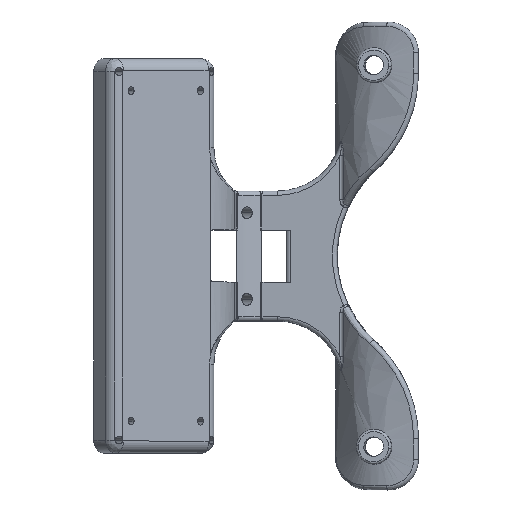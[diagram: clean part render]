
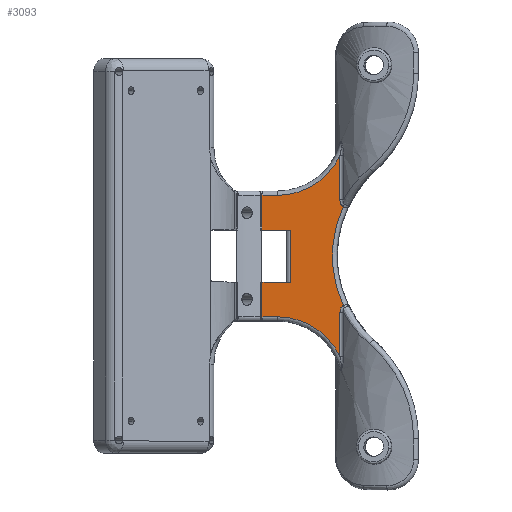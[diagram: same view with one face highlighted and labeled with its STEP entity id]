
A CAD part, top view. The second image highlights one B-rep face of the part: STEP entity #3093.
In plain terms, the highlighted planar face has unit normal (-0.04, 0, 0.999).
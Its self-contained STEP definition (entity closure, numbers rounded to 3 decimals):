
#207 = CARTESIAN_POINT ( 'NONE',  ( -33.754, -6., 86.247 ) ) ;
#230 = VERTEX_POINT ( 'NONE', #324 ) ;
#283 = CARTESIAN_POINT ( 'NONE',  ( -3.499, 6., 87.457 ) ) ;
#306 = CARTESIAN_POINT ( 'NONE',  ( -22.273, 0., 86.706 ) ) ;
#324 = CARTESIAN_POINT ( 'NONE',  ( -40.258, -6., 85.987 ) ) ;
#429 = CARTESIAN_POINT ( 'NONE',  ( -21.759, 11.579, 86.727 ) ) ;
#530 = CARTESIAN_POINT ( 'NONE',  ( -21.487, -11.405, 86.738 ) ) ;
#539 = B_SPLINE_CURVE_WITH_KNOTS ( 'NONE', 3,
 ( #2576, #1496, #7048, #11497, #2649, #7119, #1566, #6029, #10494, #12873 ),
 .UNSPECIFIED., .F., .F.,
 ( 4, 2, 2, 2, 4 ),
 ( 0., 0., 0.001, 0.001, 0.002 ),
 .UNSPECIFIED. ) ;
#955 = DIRECTION ( 'NONE',  ( 0.999, 0., 0.04 ) ) ;
#1075 = ORIENTED_EDGE ( 'NONE', *, *, #11153, .T. ) ;
#1244 = VERTEX_POINT ( 'NONE', #530 ) ;
#1368 = DIRECTION ( 'NONE',  ( 0.04, 0., -0.999 ) ) ;
#1370 = VECTOR ( 'NONE', #4763, 1000. ) ;
#1438 = VERTEX_POINT ( 'NONE', #12808 ) ;
#1496 = CARTESIAN_POINT ( 'NONE',  ( -22.273, -12.886, 86.706 ) ) ;
#1527 = LINE ( 'NONE', #12763, #8911 ) ;
#1536 = DIRECTION ( 'NONE',  ( -0.999, 0., -0.04 ) ) ;
#1547 = ORIENTED_EDGE ( 'NONE', *, *, #7993, .T. ) ;
#1566 = CARTESIAN_POINT ( 'NONE',  ( -21.966, -11.821, 86.719 ) ) ;
#1596 = VECTOR ( 'NONE', #2437, 1000. ) ;
#1732 = EDGE_CURVE ( 'NONE', #1438, #7478, #2741, .T. ) ;
#2040 = CARTESIAN_POINT ( 'NONE',  ( -3.499, -6., 87.457 ) ) ;
#2085 = ORIENTED_EDGE ( 'NONE', *, *, #10294, .F. ) ;
#2292 = ORIENTED_EDGE ( 'NONE', *, *, #1732, .T. ) ;
#2437 = DIRECTION ( 'NONE',  ( 0., -1., 0. ) ) ;
#2453 = VERTEX_POINT ( 'NONE', #3089 ) ;
#2495 = ORIENTED_EDGE ( 'NONE', *, *, #2712, .T. ) ;
#2571 = DIRECTION ( 'NONE',  ( 0., 1., 0. ) ) ;
#2576 = CARTESIAN_POINT ( 'NONE',  ( -22.273, -13.046, 86.706 ) ) ;
#2609 = CARTESIAN_POINT ( 'NONE',  ( -22.273, 23.196, 86.706 ) ) ;
#2649 = CARTESIAN_POINT ( 'NONE',  ( -22.168, -12.258, 86.711 ) ) ;
#2712 = EDGE_CURVE ( 'NONE', #10264, #7228, #11204, .T. ) ;
#2741 = LINE ( 'NONE', #6997, #12635 ) ;
#2817 = VECTOR ( 'NONE', #2571, 1000. ) ;
#2844 = LINE ( 'NONE', #2040, #6719 ) ;
#2961 = CARTESIAN_POINT ( 'NONE',  ( -40.258, -14., 85.987 ) ) ;
#2992 = CARTESIAN_POINT ( 'NONE',  ( -3.499, 0., 87.457 ) ) ;
#3002 = ORIENTED_EDGE ( 'NONE', *, *, #8420, .T. ) ;
#3089 = CARTESIAN_POINT ( 'NONE',  ( -36.743, -14., 86.127 ) ) ;
#3093 = ADVANCED_FACE ( 'NONE', ( #11981 ), #8854, .T. ) ;
#3199 = CARTESIAN_POINT ( 'NONE',  ( -22.273, -23.196, 86.706 ) ) ;
#3345 = DIRECTION ( 'NONE',  ( 0.04, 0., -0.999 ) ) ;
#3526 = LINE ( 'NONE', #12666, #1596 ) ;
#3567 = DIRECTION ( 'NONE',  ( 0.999, 0., 0.04 ) ) ;
#3700 = CARTESIAN_POINT ( 'NONE',  ( 2.966, 0., 87.716 ) ) ;
#3760 = DIRECTION ( 'NONE',  ( -0.999, 0., -0.04 ) ) ;
#3782 = DIRECTION ( 'NONE',  ( 0.999, 0., 0.04 ) ) ;
#3784 = CARTESIAN_POINT ( 'NONE',  ( -22.047, 11.963, 86.715 ) ) ;
#3849 = VERTEX_POINT ( 'NONE', #12640 ) ;
#3921 = DIRECTION ( 'NONE',  ( 0., 1., 0. ) ) ;
#4186 = ORIENTED_EDGE ( 'NONE', *, *, #11939, .T. ) ;
#4262 = ORIENTED_EDGE ( 'NONE', *, *, #13661, .T. ) ;
#4354 = ORIENTED_EDGE ( 'NONE', *, *, #13399, .T. ) ;
#4401 = EDGE_LOOP ( 'NONE', ( #6096, #1075, #12333, #3002, #2292, #4186, #2085, #7328, #5460, #4354, #10398, #1547, #2495, #4262 ) ) ;
#4474 = EDGE_CURVE ( 'NONE', #12536, #7787, #1527, .T. ) ;
#4763 = DIRECTION ( 'NONE',  ( 0., -1., 0. ) ) ;
#4823 = LINE ( 'NONE', #5039, #13719 ) ;
#4899 = CARTESIAN_POINT ( 'NONE',  ( -21.966, 11.822, 86.719 ) ) ;
#5039 = CARTESIAN_POINT ( 'NONE',  ( -3.499, -14., 87.457 ) ) ;
#5401 = VERTEX_POINT ( 'NONE', #7855 ) ;
#5460 = ORIENTED_EDGE ( 'NONE', *, *, #13916, .F. ) ;
#5601 = CARTESIAN_POINT ( 'NONE',  ( -36.743, -30., 86.127 ) ) ;
#6029 = CARTESIAN_POINT ( 'NONE',  ( -21.756, -11.576, 86.727 ) ) ;
#6080 = LINE ( 'NONE', #12490, #1370 ) ;
#6096 = ORIENTED_EDGE ( 'NONE', *, *, #14038, .T. ) ;
#6274 = CARTESIAN_POINT ( 'NONE',  ( -21.487, 11.405, 86.738 ) ) ;
#6352 = DIRECTION ( 'NONE',  ( 0., -1., 0. ) ) ;
#6584 = DIRECTION ( 'NONE',  ( -0.04, 0., 0.999 ) ) ;
#6719 = VECTOR ( 'NONE', #8553, 1000. ) ;
#6997 = CARTESIAN_POINT ( 'NONE',  ( -3.499, 14., 87.457 ) ) ;
#7048 = CARTESIAN_POINT ( 'NONE',  ( -22.262, -12.725, 86.707 ) ) ;
#7119 = CARTESIAN_POINT ( 'NONE',  ( -22.046, -11.96, 86.715 ) ) ;
#7200 = AXIS2_PLACEMENT_3D ( 'NONE', #3700, #9422, #9282 ) ;
#7228 = VERTEX_POINT ( 'NONE', #13165 ) ;
#7328 = ORIENTED_EDGE ( 'NONE', *, *, #13838, .T. ) ;
#7385 = B_SPLINE_CURVE_WITH_KNOTS ( 'NONE', 3,
 ( #9503, #9290, #429, #4899, #3784, #11606, #12844, #8614, #12028, #13197 ),
 .UNSPECIFIED., .F., .F.,
 ( 4, 2, 2, 2, 4 ),
 ( 0., 0., 0.001, 0.001, 0.002 ),
 .UNSPECIFIED. ) ;
#7445 = CARTESIAN_POINT ( 'NONE',  ( -40.258, 6., 85.987 ) ) ;
#7478 = VERTEX_POINT ( 'NONE', #13280 ) ;
#7787 = VERTEX_POINT ( 'NONE', #2609 ) ;
#7855 = CARTESIAN_POINT ( 'NONE',  ( -33.754, 6., 86.247 ) ) ;
#7890 = VERTEX_POINT ( 'NONE', #2961 ) ;
#7965 = CARTESIAN_POINT ( 'NONE',  ( -36.743, 30., 86.127 ) ) ;
#7993 = EDGE_CURVE ( 'NONE', #2453, #10264, #13915, .T. ) ;
#8420 = EDGE_CURVE ( 'NONE', #7787, #1438, #12977, .T. ) ;
#8553 = DIRECTION ( 'NONE',  ( 0.999, 0., 0.04 ) ) ;
#8614 = CARTESIAN_POINT ( 'NONE',  ( -22.262, 12.728, 86.707 ) ) ;
#8854 = PLANE ( 'NONE',  #10316 ) ;
#8865 = VERTEX_POINT ( 'NONE', #6274 ) ;
#8911 = VECTOR ( 'NONE', #3921, 1000. ) ;
#9282 = DIRECTION ( 'NONE',  ( 0.999, 0., 0.04 ) ) ;
#9290 = CARTESIAN_POINT ( 'NONE',  ( -21.632, 11.476, 86.732 ) ) ;
#9422 = DIRECTION ( 'NONE',  ( 0.04, 0., -0.999 ) ) ;
#9503 = CARTESIAN_POINT ( 'NONE',  ( -21.487, 11.405, 86.738 ) ) ;
#9530 = VECTOR ( 'NONE', #1536, 1000. ) ;
#9971 = AXIS2_PLACEMENT_3D ( 'NONE', #7965, #3345, #3567 ) ;
#10070 = DIRECTION ( 'NONE',  ( 0.999, 0., 0.04 ) ) ;
#10202 = AXIS2_PLACEMENT_3D ( 'NONE', #5601, #1368, #10070 ) ;
#10264 = VERTEX_POINT ( 'NONE', #3199 ) ;
#10294 = EDGE_CURVE ( 'NONE', #5401, #3849, #10319, .T. ) ;
#10316 = AXIS2_PLACEMENT_3D ( 'NONE', #2992, #6584, #955 ) ;
#10319 = LINE ( 'NONE', #283, #9530 ) ;
#10357 = EDGE_CURVE ( 'NONE', #7890, #2453, #4823, .T. ) ;
#10398 = ORIENTED_EDGE ( 'NONE', *, *, #10357, .T. ) ;
#10494 = CARTESIAN_POINT ( 'NONE',  ( -21.632, -11.476, 86.732 ) ) ;
#10872 = LINE ( 'NONE', #7445, #12057 ) ;
#11153 = EDGE_CURVE ( 'NONE', #8865, #12536, #7385, .T. ) ;
#11204 = LINE ( 'NONE', #306, #2817 ) ;
#11497 = CARTESIAN_POINT ( 'NONE',  ( -22.209, -12.411, 86.709 ) ) ;
#11606 = CARTESIAN_POINT ( 'NONE',  ( -22.168, 12.258, 86.71 ) ) ;
#11939 = EDGE_CURVE ( 'NONE', #7478, #3849, #10872, .T. ) ;
#11981 = FACE_OUTER_BOUND ( 'NONE', #4401, .T. ) ;
#12028 = CARTESIAN_POINT ( 'NONE',  ( -22.273, 12.886, 86.706 ) ) ;
#12057 = VECTOR ( 'NONE', #6352, 1000. ) ;
#12333 = ORIENTED_EDGE ( 'NONE', *, *, #4474, .T. ) ;
#12490 = CARTESIAN_POINT ( 'NONE',  ( -33.754, -6., 86.247 ) ) ;
#12536 = VERTEX_POINT ( 'NONE', #13987 ) ;
#12635 = VECTOR ( 'NONE', #3760, 1000. ) ;
#12640 = CARTESIAN_POINT ( 'NONE',  ( -40.258, 6., 85.987 ) ) ;
#12666 = CARTESIAN_POINT ( 'NONE',  ( -40.258, -15., 85.987 ) ) ;
#12763 = CARTESIAN_POINT ( 'NONE',  ( -22.273, 0., 86.706 ) ) ;
#12808 = CARTESIAN_POINT ( 'NONE',  ( -36.743, 14., 86.127 ) ) ;
#12844 = CARTESIAN_POINT ( 'NONE',  ( -22.21, 12.415, 86.709 ) ) ;
#12873 = CARTESIAN_POINT ( 'NONE',  ( -21.487, -11.405, 86.738 ) ) ;
#12977 = CIRCLE ( 'NONE', #9971, 16. ) ;
#13165 = CARTESIAN_POINT ( 'NONE',  ( -22.273, -13.046, 86.706 ) ) ;
#13197 = CARTESIAN_POINT ( 'NONE',  ( -22.273, 13.046, 86.706 ) ) ;
#13253 = CIRCLE ( 'NONE', #7200, 27. ) ;
#13280 = CARTESIAN_POINT ( 'NONE',  ( -40.258, 14., 85.987 ) ) ;
#13399 = EDGE_CURVE ( 'NONE', #230, #7890, #3526, .T. ) ;
#13661 = EDGE_CURVE ( 'NONE', #7228, #1244, #539, .T. ) ;
#13719 = VECTOR ( 'NONE', #3782, 1000. ) ;
#13838 = EDGE_CURVE ( 'NONE', #5401, #14061, #6080, .T. ) ;
#13915 = CIRCLE ( 'NONE', #10202, 16. ) ;
#13916 = EDGE_CURVE ( 'NONE', #230, #14061, #2844, .T. ) ;
#13987 = CARTESIAN_POINT ( 'NONE',  ( -22.273, 13.046, 86.706 ) ) ;
#14038 = EDGE_CURVE ( 'NONE', #1244, #8865, #13253, .T. ) ;
#14061 = VERTEX_POINT ( 'NONE', #207 ) ;
